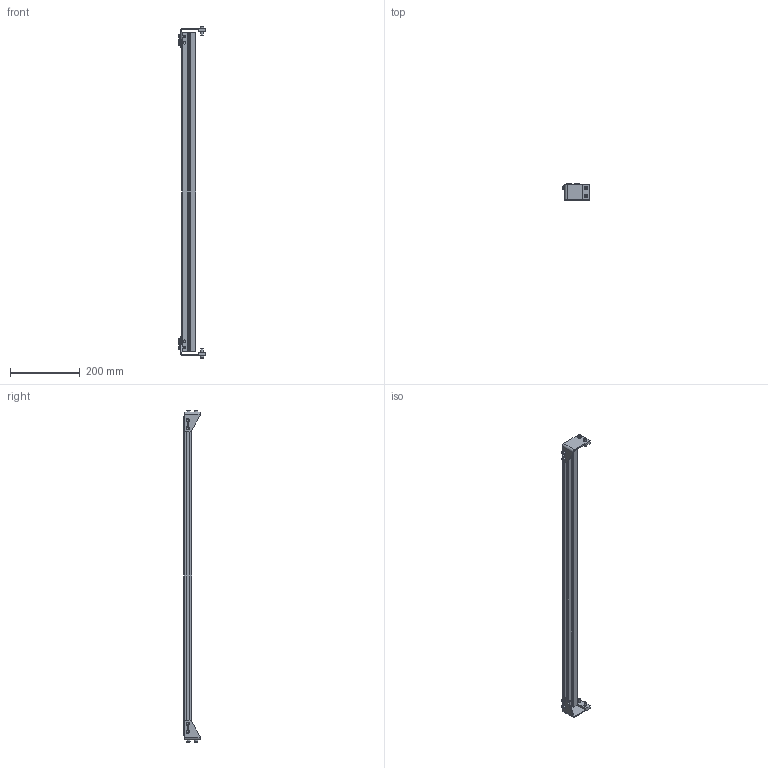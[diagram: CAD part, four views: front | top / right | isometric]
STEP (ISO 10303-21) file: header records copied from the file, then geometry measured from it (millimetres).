
FILE_DESCRIPTION((''),'2;1');
FILE_NAME('3076WWM_2_ASM','2023-03-15T',('jenni.wallner'),(''),'PRO/ENGINEER BY PARAMETRIC TECHNOLOGY CORPORATION, 2012420','PRO/ENGINEER BY PARAMETRIC TECHNOLOGY CORPORATION, 2012420','');
FILE_SCHEMA(('CONFIG_CONTROL_DESIGN'));
Length unit declared in the file: inch
Products named in the file (4): 677721_1; BRACKET_L; BRACKET_R; 3076WWM_2_ASM
Assembly tree (3 placements, depth 2):
  3076WWM_2_ASM
    677721_1
    BRACKET_L
    BRACKET_R
Bounding box: 76.2 x 46.13 x 951.22 mm (x, y, z)
Volume: 415316.4 mm3; surface area: 249887.1 mm2
Topology: 3 solids, 3 shells, 296 faces, 730 edges, 476 vertices
Faces by surface type: plane 188, cylinder 76, cone 32
Entity records: 8834 total; most frequent: CARTESIAN_POINT 1525, DIRECTION 1512, ORIENTED_EDGE 1460, EDGE_CURVE 730, VECTOR 538, LINE 538, AXIS2_PLACEMENT_3D 487, VERTEX_POINT 476
